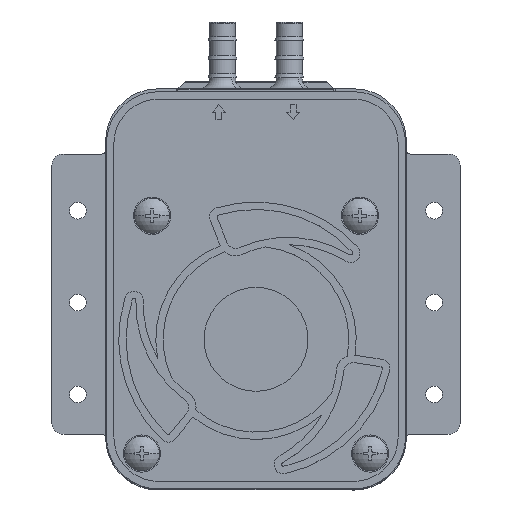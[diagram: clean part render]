
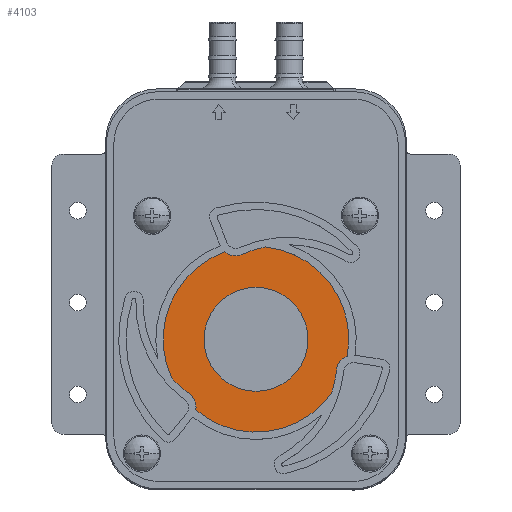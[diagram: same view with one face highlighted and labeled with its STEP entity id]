
A CAD part, top view. The second image highlights one B-rep face of the part: STEP entity #4103.
In plain terms, the highlighted planar face has unit normal (0, 0, 1).
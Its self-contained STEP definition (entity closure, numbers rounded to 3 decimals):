
#214 = AXIS2_PLACEMENT_3D ( 'NONE', #21387, #6757, #9660 ) ;
#625 = DIRECTION ( 'NONE',  ( 0., 0., -1. ) ) ;
#1235 = CARTESIAN_POINT ( 'NONE',  ( 14., 0., 2.5 ) ) ;
#2304 = CARTESIAN_POINT ( 'NONE',  ( -8.39, 23.55, 2.5 ) ) ;
#3179 = AXIS2_PLACEMENT_3D ( 'NONE', #21072, #30840, #28402 ) ;
#3627 = CARTESIAN_POINT ( 'NONE',  ( 20.348, -14.524, 2.5 ) ) ;
#3649 = EDGE_CURVE ( 'NONE', #22748, #23142, #18448, .T. ) ;
#3954 = EDGE_CURVE ( 'NONE', #23938, #20277, #8367, .T. ) ;
#4103 = ADVANCED_FACE ( 'NONE', ( #31330, #6431 ), #8862, .T. ) ;
#4525 = CARTESIAN_POINT ( 'NONE',  ( 2.499, 24.875, 2.5 ) ) ;
#4602 = CIRCLE ( 'NONE', #16016, 25. ) ;
#4967 = DIRECTION ( 'NONE',  ( 0., 0., 1. ) ) ;
#4996 = ORIENTED_EDGE ( 'NONE', *, *, #24393, .T. ) ;
#5978 = AXIS2_PLACEMENT_3D ( 'NONE', #26151, #16559, #24352 ) ;
#6128 = VERTEX_POINT ( 'NONE', #19519 ) ;
#6431 = FACE_BOUND ( 'NONE', #13502, .T. ) ;
#6628 = EDGE_CURVE ( 'NONE', #6128, #26721, #14398, .T. ) ;
#6757 = DIRECTION ( 'NONE',  ( 0., 0., 1. ) ) ;
#6801 = ORIENTED_EDGE ( 'NONE', *, *, #12216, .T. ) ;
#6834 = VERTEX_POINT ( 'NONE', #3627 ) ;
#6983 = DIRECTION ( 'NONE',  ( 0., 0., 1. ) ) ;
#7038 = VERTEX_POINT ( 'NONE', #2304 ) ;
#8367 = CIRCLE ( 'NONE', #3179, 14. ) ;
#8390 = EDGE_CURVE ( 'NONE', #14840, #7038, #29025, .T. ) ;
#8493 = EDGE_CURVE ( 'NONE', #20277, #23938, #32131, .T. ) ;
#8558 = ORIENTED_EDGE ( 'NONE', *, *, #28380, .T. ) ;
#8595 = ORIENTED_EDGE ( 'NONE', *, *, #6628, .T. ) ;
#8862 = PLANE ( 'NONE',  #11498 ) ;
#9274 = DIRECTION ( 'NONE',  ( -1., 0., 0. ) ) ;
#9660 = DIRECTION ( 'NONE',  ( 0.648, 0.762, 0. ) ) ;
#9837 = CARTESIAN_POINT ( 'NONE',  ( 0., 0., 2.5 ) ) ;
#10409 = CARTESIAN_POINT ( 'NONE',  ( -22.756, -10.351, 2.5 ) ) ;
#10434 = AXIS2_PLACEMENT_3D ( 'NONE', #27845, #13038, #11078 ) ;
#10908 = CARTESIAN_POINT ( 'NONE',  ( -5.5, 27., 2.5 ) ) ;
#11078 = DIRECTION ( 'NONE',  ( 0.746, 0.666, 0. ) ) ;
#11100 = DIRECTION ( 'NONE',  ( 0., 0., 1. ) ) ;
#11435 = DIRECTION ( 'NONE',  ( -0.95, 0.312, 0. ) ) ;
#11498 = AXIS2_PLACEMENT_3D ( 'NONE', #31175, #26451, #28732 ) ;
#11627 = CARTESIAN_POINT ( 'NONE',  ( -17.997, -14.651, 2.5 ) ) ;
#11667 = DIRECTION ( 'NONE',  ( 0., 0., 1. ) ) ;
#11760 = DIRECTION ( 'NONE',  ( 0., 0., 1. ) ) ;
#12212 = CIRCLE ( 'NONE', #28302, 30. ) ;
#12216 = EDGE_CURVE ( 'NONE', #23142, #6834, #25640, .T. ) ;
#12382 = AXIS2_PLACEMENT_3D ( 'NONE', #21458, #6983, #9274 ) ;
#13029 = EDGE_CURVE ( 'NONE', #26594, #22748, #15629, .T. ) ;
#13038 = DIRECTION ( 'NONE',  ( 0., 0., 1. ) ) ;
#13502 = EDGE_LOOP ( 'NONE', ( #15897, #30882 ) ) ;
#14019 = DIRECTION ( 'NONE',  ( 0.202, -0.979, 0. ) ) ;
#14367 = CARTESIAN_POINT ( 'NONE',  ( -14., 0., 2.5 ) ) ;
#14398 = CIRCLE ( 'NONE', #16971, 4.5 ) ;
#14840 = VERTEX_POINT ( 'NONE', #28471 ) ;
#15629 = CIRCLE ( 'NONE', #10434, 30. ) ;
#15897 = ORIENTED_EDGE ( 'NONE', *, *, #8493, .F. ) ;
#15989 = ORIENTED_EDGE ( 'NONE', *, *, #8390, .T. ) ;
#16016 = AXIS2_PLACEMENT_3D ( 'NONE', #28758, #11667, #31197 ) ;
#16559 = DIRECTION ( 'NONE',  ( 0., 0., -1. ) ) ;
#16771 = CARTESIAN_POINT ( 'NONE',  ( 8.553, -4.508, 2.5 ) ) ;
#16971 = AXIS2_PLACEMENT_3D ( 'NONE', #22868, #625, #22711 ) ;
#18448 = CIRCLE ( 'NONE', #5978, 4.5 ) ;
#19519 = CARTESIAN_POINT ( 'NONE',  ( 21.68, -8.291, 2.5 ) ) ;
#20277 = VERTEX_POINT ( 'NONE', #14367 ) ;
#21072 = CARTESIAN_POINT ( 'NONE',  ( 0., 0., 2.5 ) ) ;
#21387 = CARTESIAN_POINT ( 'NONE',  ( 0., 0., 2.5 ) ) ;
#21458 = CARTESIAN_POINT ( 'NONE',  ( 0., 0., 2.5 ) ) ;
#21536 = CIRCLE ( 'NONE', #22064, 30. ) ;
#21637 = ORIENTED_EDGE ( 'NONE', *, *, #13029, .T. ) ;
#22064 = AXIS2_PLACEMENT_3D ( 'NONE', #31283, #11100, #11435 ) ;
#22196 = DIRECTION ( 'NONE',  ( -0.983, 0.182, 0. ) ) ;
#22711 = DIRECTION ( 'NONE',  ( -0.349, 0.937, 0. ) ) ;
#22748 = VERTEX_POINT ( 'NONE', #11627 ) ;
#22868 = CARTESIAN_POINT ( 'NONE',  ( 26.156, -8.758, 2.5 ) ) ;
#23090 = DIRECTION ( 'NONE',  ( -0.642, -0.767, 0. ) ) ;
#23142 = VERTEX_POINT ( 'NONE', #24043 ) ;
#23547 = AXIS2_PLACEMENT_3D ( 'NONE', #9837, #4967, #22196 ) ;
#23562 = EDGE_CURVE ( 'NONE', #7038, #26594, #4602, .T. ) ;
#23938 = VERTEX_POINT ( 'NONE', #1235 ) ;
#24043 = CARTESIAN_POINT ( 'NONE',  ( -16.202, -19.039, 2.5 ) ) ;
#24352 = DIRECTION ( 'NONE',  ( 0.986, -0.166, 0. ) ) ;
#24393 = EDGE_CURVE ( 'NONE', #6834, #6128, #21536, .T. ) ;
#24396 = ORIENTED_EDGE ( 'NONE', *, *, #3649, .T. ) ;
#24422 = EDGE_CURVE ( 'NONE', #26897, #14840, #12212, .T. ) ;
#25111 = CIRCLE ( 'NONE', #23547, 25. ) ;
#25215 = ORIENTED_EDGE ( 'NONE', *, *, #23562, .T. ) ;
#25640 = CIRCLE ( 'NONE', #214, 25. ) ;
#26151 = CARTESIAN_POINT ( 'NONE',  ( -20.64, -18.294, 2.5 ) ) ;
#26451 = DIRECTION ( 'NONE',  ( 0., 0., 1. ) ) ;
#26456 = EDGE_LOOP ( 'NONE', ( #15989, #25215, #21637, #24396, #6801, #4996, #8595, #8558, #30721 ) ) ;
#26494 = CARTESIAN_POINT ( 'NONE',  ( 24.584, -4.542, 2.5 ) ) ;
#26594 = VERTEX_POINT ( 'NONE', #10409 ) ;
#26721 = VERTEX_POINT ( 'NONE', #26494 ) ;
#26897 = VERTEX_POINT ( 'NONE', #4525 ) ;
#27845 = CARTESIAN_POINT ( 'NONE',  ( -0.38, 9.631, 2.5 ) ) ;
#28302 = AXIS2_PLACEMENT_3D ( 'NONE', #16771, #11760, #14019 ) ;
#28380 = EDGE_CURVE ( 'NONE', #26721, #26897, #25111, .T. ) ;
#28402 = DIRECTION ( 'NONE',  ( -1., 0., 0. ) ) ;
#28471 = CARTESIAN_POINT ( 'NONE',  ( -3.667, 22.89, 2.5 ) ) ;
#28732 = DIRECTION ( 'NONE',  ( 0.707, 0.707, 0. ) ) ;
#28758 = CARTESIAN_POINT ( 'NONE',  ( 0., 0., 2.5 ) ) ;
#28947 = AXIS2_PLACEMENT_3D ( 'NONE', #10908, #30753, #23090 ) ;
#29025 = CIRCLE ( 'NONE', #28947, 4.5 ) ;
#30721 = ORIENTED_EDGE ( 'NONE', *, *, #24422, .T. ) ;
#30753 = DIRECTION ( 'NONE',  ( 0., 0., -1. ) ) ;
#30840 = DIRECTION ( 'NONE',  ( 0., 0., 1. ) ) ;
#30882 = ORIENTED_EDGE ( 'NONE', *, *, #3954, .F. ) ;
#31175 = CARTESIAN_POINT ( 'NONE',  ( 0., 13.2, 2.5 ) ) ;
#31197 = DIRECTION ( 'NONE',  ( 0.336, -0.942, 0. ) ) ;
#31283 = CARTESIAN_POINT ( 'NONE',  ( -8.158, -5.175, 2.5 ) ) ;
#31330 = FACE_OUTER_BOUND ( 'NONE', #26456, .T. ) ;
#32131 = CIRCLE ( 'NONE', #12382, 14. ) ;
